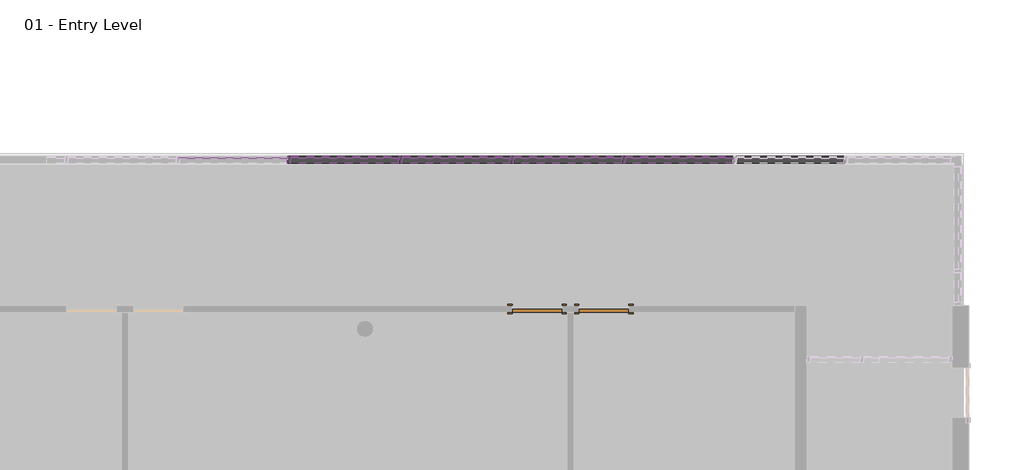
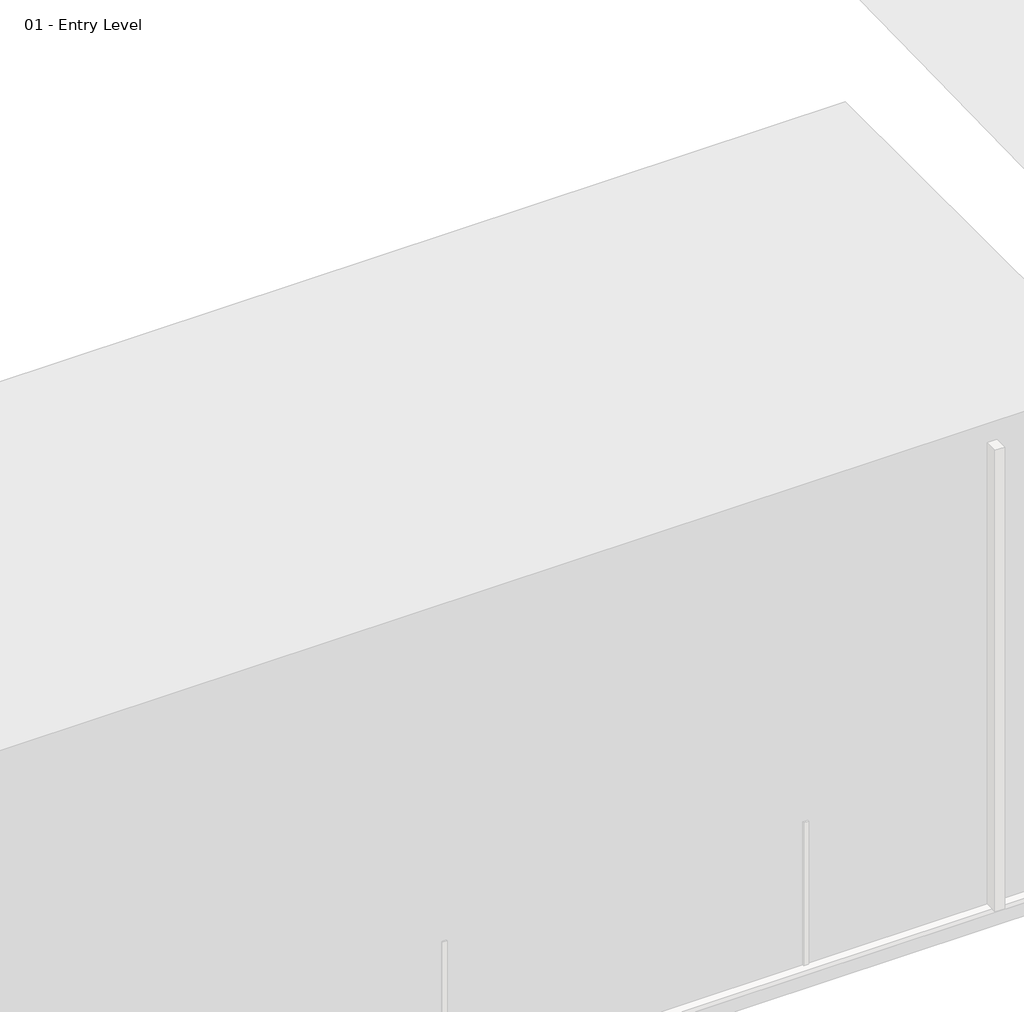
# One storey, part 21 of 35: 85 members, 45 plates, 2 doors.
"""IFC4 building model written with IfcOpenShell, lengths in millimetres."""

from ifc_helpers import new_model, si_unit, origin, place, context, project, spatial, transform, mapped, element, save
from components import door_305aa2a5, door_e5f9f3c4, member_2b49869a, member_391b434c, member_9e90ae50, system_panel_glazed_1b9d6098, system_panel_glazed_70da479d

model = new_model("IFC4")

# Units and contexts
model_context = context("Model", 3, world=origin())
ifc_project = project(units=[si_unit("LENGTHUNIT", "METRE", prefix="MILLI")], contexts=[model_context])

# Site, building, storey
site = spatial("IfcSite", under=ifc_project)
building = spatial("IfcBuilding", under=site)
storey = spatial("IfcBuildingStorey", under=building, Name="01 - Entry Level", Elevation=0.0)

# Doors
placement = place(None, origin())
door_shape = door_305aa2a5(model_context)
element("IfcDoor", 1, ObjectType="Single-Flush : 36\" x 84\"", at=placement, inside=storey, context=model_context, shape_type="MappedRepresentation", body=[
    mapped(door_shape, transform((58433.6207476, 8277.15, 0.0), x_axis=(1.0, 0.0, 0.0), y_axis=(0.0, 1.0, 0.0), z_axis=(0.0, 0.0, 1.0))),
])
door_2_shape = door_e5f9f3c4(model_context)
element("IfcDoor", 2, ObjectType="Single-Flush : 36\" x 84\"", at=placement, inside=storey, context=model_context, shape_type="MappedRepresentation", body=[
    mapped(door_2_shape, transform((59652.8207476, 8277.15, 0.0), x_axis=(-1.0, 0.0, 0.0), y_axis=(0.0, -1.0, 0.0), z_axis=(0.0, 0.0, 1.0))),
])

# Members
member_shape = member_2b49869a(model_context)
element("IfcMember", 3, ObjectType="Rectangular Mullion : 2.5\" x 5\" rectangular", at=placement, inside=storey, context=model_context, shape_type="MappedRepresentation", body=[
    mapped(member_shape, transform((60008.4207476, 11001.3, 9753.6), x_axis=(-1.0, 0.0, 0.0), y_axis=(0.0, 1.0, 0.0), z_axis=(0.0, 0.0, -1.0))),
])
element("IfcMember", 4, ObjectType="Rectangular Mullion : 2.5\" x 5\" rectangular", at=placement, inside=storey, context=model_context, shape_type="MappedRepresentation", body=[
    mapped(member_shape, transform((57976.4207476, 11001.3, 9753.6), x_axis=(-1.0, 0.0, 0.0), y_axis=(0.0, 1.0, 0.0), z_axis=(0.0, 0.0, -1.0))),
])
element("IfcMember", 5, ObjectType="Rectangular Mullion : 2.5\" x 5\" rectangular", at=placement, inside=storey, context=model_context, shape_type="MappedRepresentation", body=[
    mapped(member_shape, transform((55944.4207476, 11001.3, 9753.6), x_axis=(-1.0, 0.0, 0.0), y_axis=(0.0, 1.0, 0.0), z_axis=(0.0, 0.0, -1.0))),
])
element("IfcMember", 6, ObjectType="Rectangular Mullion : 2.5\" x 5\" rectangular", at=placement, inside=storey, context=model_context, shape_type="MappedRepresentation", body=[
    mapped(member_shape, transform((53912.4207476, 11001.3, 9753.6), x_axis=(-1.0, 0.0, 0.0), y_axis=(0.0, 1.0, 0.0), z_axis=(0.0, 0.0, -1.0))),
])
member_2_shape = member_391b434c(model_context)
element("IfcMember", 7, ObjectType="Rectangular Mullion : 2.5\" x 5\" rectangular", at=placement, inside=storey, context=model_context, shape_type="MappedRepresentation", body=[
    mapped(member_2_shape, transform((62072.1707476, 11001.3, 10972.8), x_axis=(0.0, 0.0, 1.0), y_axis=(0.0, 1.0, 0.0), z_axis=(-1.0, 0.0, 0.0))),
])
element("IfcMember", 8, ObjectType="Rectangular Mullion : 2.5\" x 5\" rectangular", at=placement, inside=storey, context=model_context, shape_type="MappedRepresentation", body=[
    mapped(member_2_shape, transform((60040.1707476, 11001.3, 10972.8), x_axis=(0.0, 0.0, 1.0), y_axis=(0.0, 1.0, 0.0), z_axis=(-1.0, 0.0, 0.0))),
])
element("IfcMember", 9, ObjectType="Rectangular Mullion : 2.5\" x 5\" rectangular", at=placement, inside=storey, context=model_context, shape_type="MappedRepresentation", body=[
    mapped(member_2_shape, transform((58008.1707476, 11001.3, 10972.8), x_axis=(0.0, 0.0, 1.0), y_axis=(0.0, 1.0, 0.0), z_axis=(-1.0, 0.0, 0.0))),
])
element("IfcMember", 10, ObjectType="Rectangular Mullion : 2.5\" x 5\" rectangular", at=placement, inside=storey, context=model_context, shape_type="MappedRepresentation", body=[
    mapped(member_2_shape, transform((55976.1707476, 11001.3, 10972.8), x_axis=(0.0, 0.0, 1.0), y_axis=(0.0, 1.0, 0.0), z_axis=(-1.0, 0.0, 0.0))),
])
element("IfcMember", 11, ObjectType="Rectangular Mullion : 2.5\" x 5\" rectangular", at=placement, inside=storey, context=model_context, shape_type="MappedRepresentation", body=[
    mapped(member_2_shape, transform((53944.1707476, 11001.3, 10972.8), x_axis=(0.0, 0.0, 1.0), y_axis=(0.0, 1.0, 0.0), z_axis=(-1.0, 0.0, 0.0))),
])
element("IfcMember", 12, ObjectType="Rectangular Mullion : 2.5\" x 5\" rectangular", at=placement, inside=storey, context=model_context, shape_type="MappedRepresentation", body=[
    mapped(member_2_shape, transform((62008.6707476, 11001.3, 0.0), x_axis=(0.0, 0.0, -1.0), y_axis=(0.0, 1.0, 0.0), z_axis=(1.0, 0.0, 0.0))),
])
element("IfcMember", 13, ObjectType="Rectangular Mullion : 2.5\" x 5\" rectangular", at=placement, inside=storey, context=model_context, shape_type="MappedRepresentation", body=[
    mapped(member_2_shape, transform((59976.6707476, 11001.3, 0.0), x_axis=(0.0, 0.0, -1.0), y_axis=(0.0, 1.0, 0.0), z_axis=(1.0, 0.0, 0.0))),
])
element("IfcMember", 14, ObjectType="Rectangular Mullion : 2.5\" x 5\" rectangular", at=placement, inside=storey, context=model_context, shape_type="MappedRepresentation", body=[
    mapped(member_2_shape, transform((57944.6707476, 11001.3, 0.0), x_axis=(0.0, 0.0, -1.0), y_axis=(0.0, 1.0, 0.0), z_axis=(1.0, 0.0, 0.0))),
])
element("IfcMember", 15, ObjectType="Rectangular Mullion : 2.5\" x 5\" rectangular", at=placement, inside=storey, context=model_context, shape_type="MappedRepresentation", body=[
    mapped(member_2_shape, transform((55912.6707476, 11001.3, 0.0), x_axis=(0.0, 0.0, -1.0), y_axis=(0.0, 1.0, 0.0), z_axis=(1.0, 0.0, 0.0))),
])
element("IfcMember", 16, ObjectType="Rectangular Mullion : 2.5\" x 5\" rectangular", at=placement, inside=storey, context=model_context, shape_type="MappedRepresentation", body=[
    mapped(member_2_shape, transform((53880.6707476, 11001.3, 0.0), x_axis=(0.0, 0.0, -1.0), y_axis=(0.0, 1.0, 0.0), z_axis=(1.0, 0.0, 0.0))),
])
member_3_shape = member_9e90ae50(model_context)
element("IfcMember", 17, ObjectType="Rectangular Mullion : 2.5\" x 5\" rectangular", at=placement, inside=storey, context=model_context, shape_type="MappedRepresentation", body=[
    mapped(member_3_shape, transform((62072.1707476, 11001.3, 1219.2), x_axis=(0.0, 0.0, 1.0), y_axis=(0.0, 1.0, 0.0), z_axis=(-1.0, 0.0, 0.0))),
])
element("IfcMember", 18, ObjectType="Rectangular Mullion : 2.5\" x 5\" rectangular", at=placement, inside=storey, context=model_context, shape_type="MappedRepresentation", body=[
    mapped(member_3_shape, transform((60040.1707476, 11001.3, 1219.2), x_axis=(0.0, 0.0, 1.0), y_axis=(0.0, 1.0, 0.0), z_axis=(-1.0, 0.0, 0.0))),
])
element("IfcMember", 19, ObjectType="Rectangular Mullion : 2.5\" x 5\" rectangular", at=placement, inside=storey, context=model_context, shape_type="MappedRepresentation", body=[
    mapped(member_3_shape, transform((58008.1707476, 11001.3, 1219.2), x_axis=(0.0, 0.0, 1.0), y_axis=(0.0, 1.0, 0.0), z_axis=(-1.0, 0.0, 0.0))),
])
element("IfcMember", 20, ObjectType="Rectangular Mullion : 2.5\" x 5\" rectangular", at=placement, inside=storey, context=model_context, shape_type="MappedRepresentation", body=[
    mapped(member_3_shape, transform((55976.1707476, 11001.3, 1219.2), x_axis=(0.0, 0.0, 1.0), y_axis=(0.0, 1.0, 0.0), z_axis=(-1.0, 0.0, 0.0))),
])
element("IfcMember", 21, ObjectType="Rectangular Mullion : 2.5\" x 5\" rectangular", at=placement, inside=storey, context=model_context, shape_type="MappedRepresentation", body=[
    mapped(member_3_shape, transform((53944.1707476, 11001.3, 1219.2), x_axis=(0.0, 0.0, 1.0), y_axis=(0.0, 1.0, 0.0), z_axis=(-1.0, 0.0, 0.0))),
])
element("IfcMember", 22, ObjectType="Rectangular Mullion : 2.5\" x 5\" rectangular", at=placement, inside=storey, context=model_context, shape_type="MappedRepresentation", body=[
    mapped(member_3_shape, transform((62072.1707476, 11001.3, 2438.4), x_axis=(0.0, 0.0, 1.0), y_axis=(0.0, 1.0, 0.0), z_axis=(-1.0, 0.0, 0.0))),
])
element("IfcMember", 23, ObjectType="Rectangular Mullion : 2.5\" x 5\" rectangular", at=placement, inside=storey, context=model_context, shape_type="MappedRepresentation", body=[
    mapped(member_3_shape, transform((60040.1707476, 11001.3, 2438.4), x_axis=(0.0, 0.0, 1.0), y_axis=(0.0, 1.0, 0.0), z_axis=(-1.0, 0.0, 0.0))),
])
element("IfcMember", 24, ObjectType="Rectangular Mullion : 2.5\" x 5\" rectangular", at=placement, inside=storey, context=model_context, shape_type="MappedRepresentation", body=[
    mapped(member_3_shape, transform((58008.1707476, 11001.3, 2438.4), x_axis=(0.0, 0.0, 1.0), y_axis=(0.0, 1.0, 0.0), z_axis=(-1.0, 0.0, 0.0))),
])
element("IfcMember", 25, ObjectType="Rectangular Mullion : 2.5\" x 5\" rectangular", at=placement, inside=storey, context=model_context, shape_type="MappedRepresentation", body=[
    mapped(member_3_shape, transform((55976.1707476, 11001.3, 2438.4), x_axis=(0.0, 0.0, 1.0), y_axis=(0.0, 1.0, 0.0), z_axis=(-1.0, 0.0, 0.0))),
])
element("IfcMember", 26, ObjectType="Rectangular Mullion : 2.5\" x 5\" rectangular", at=placement, inside=storey, context=model_context, shape_type="MappedRepresentation", body=[
    mapped(member_3_shape, transform((53944.1707476, 11001.3, 2438.4), x_axis=(0.0, 0.0, 1.0), y_axis=(0.0, 1.0, 0.0), z_axis=(-1.0, 0.0, 0.0))),
])
element("IfcMember", 27, ObjectType="Rectangular Mullion : 2.5\" x 5\" rectangular", at=placement, inside=storey, context=model_context, shape_type="MappedRepresentation", body=[
    mapped(member_3_shape, transform((62072.1707476, 11001.3, 3657.6), x_axis=(0.0, 0.0, 1.0), y_axis=(0.0, 1.0, 0.0), z_axis=(-1.0, 0.0, 0.0))),
])
element("IfcMember", 28, ObjectType="Rectangular Mullion : 2.5\" x 5\" rectangular", at=placement, inside=storey, context=model_context, shape_type="MappedRepresentation", body=[
    mapped(member_3_shape, transform((60040.1707476, 11001.3, 3657.6), x_axis=(0.0, 0.0, 1.0), y_axis=(0.0, 1.0, 0.0), z_axis=(-1.0, 0.0, 0.0))),
])
element("IfcMember", 29, ObjectType="Rectangular Mullion : 2.5\" x 5\" rectangular", at=placement, inside=storey, context=model_context, shape_type="MappedRepresentation", body=[
    mapped(member_3_shape, transform((58008.1707476, 11001.3, 3657.6), x_axis=(0.0, 0.0, 1.0), y_axis=(0.0, 1.0, 0.0), z_axis=(-1.0, 0.0, 0.0))),
])
element("IfcMember", 30, ObjectType="Rectangular Mullion : 2.5\" x 5\" rectangular", at=placement, inside=storey, context=model_context, shape_type="MappedRepresentation", body=[
    mapped(member_3_shape, transform((55976.1707476, 11001.3, 3657.6), x_axis=(0.0, 0.0, 1.0), y_axis=(0.0, 1.0, 0.0), z_axis=(-1.0, 0.0, 0.0))),
])
element("IfcMember", 31, ObjectType="Rectangular Mullion : 2.5\" x 5\" rectangular", at=placement, inside=storey, context=model_context, shape_type="MappedRepresentation", body=[
    mapped(member_3_shape, transform((53944.1707476, 11001.3, 3657.6), x_axis=(0.0, 0.0, 1.0), y_axis=(0.0, 1.0, 0.0), z_axis=(-1.0, 0.0, 0.0))),
])
element("IfcMember", 32, ObjectType="Rectangular Mullion : 2.5\" x 5\" rectangular", at=placement, inside=storey, context=model_context, shape_type="MappedRepresentation", body=[
    mapped(member_3_shape, transform((62072.1707476, 11001.3, 4876.8), x_axis=(0.0, 0.0, 1.0), y_axis=(0.0, 1.0, 0.0), z_axis=(-1.0, 0.0, 0.0))),
])
element("IfcMember", 33, ObjectType="Rectangular Mullion : 2.5\" x 5\" rectangular", at=placement, inside=storey, context=model_context, shape_type="MappedRepresentation", body=[
    mapped(member_3_shape, transform((60040.1707476, 11001.3, 4876.8), x_axis=(0.0, 0.0, 1.0), y_axis=(0.0, 1.0, 0.0), z_axis=(-1.0, 0.0, 0.0))),
])
element("IfcMember", 34, ObjectType="Rectangular Mullion : 2.5\" x 5\" rectangular", at=placement, inside=storey, context=model_context, shape_type="MappedRepresentation", body=[
    mapped(member_3_shape, transform((58008.1707476, 11001.3, 4876.8), x_axis=(0.0, 0.0, 1.0), y_axis=(0.0, 1.0, 0.0), z_axis=(-1.0, 0.0, 0.0))),
])
element("IfcMember", 35, ObjectType="Rectangular Mullion : 2.5\" x 5\" rectangular", at=placement, inside=storey, context=model_context, shape_type="MappedRepresentation", body=[
    mapped(member_3_shape, transform((55976.1707476, 11001.3, 4876.8), x_axis=(0.0, 0.0, 1.0), y_axis=(0.0, 1.0, 0.0), z_axis=(-1.0, 0.0, 0.0))),
])
element("IfcMember", 36, ObjectType="Rectangular Mullion : 2.5\" x 5\" rectangular", at=placement, inside=storey, context=model_context, shape_type="MappedRepresentation", body=[
    mapped(member_3_shape, transform((53944.1707476, 11001.3, 4876.8), x_axis=(0.0, 0.0, 1.0), y_axis=(0.0, 1.0, 0.0), z_axis=(-1.0, 0.0, 0.0))),
])
element("IfcMember", 37, ObjectType="Rectangular Mullion : 2.5\" x 5\" rectangular", at=placement, inside=storey, context=model_context, shape_type="MappedRepresentation", body=[
    mapped(member_3_shape, transform((62072.1707476, 11001.3, 6096.0), x_axis=(0.0, 0.0, 1.0), y_axis=(0.0, 1.0, 0.0), z_axis=(-1.0, 0.0, 0.0))),
])
element("IfcMember", 38, ObjectType="Rectangular Mullion : 2.5\" x 5\" rectangular", at=placement, inside=storey, context=model_context, shape_type="MappedRepresentation", body=[
    mapped(member_3_shape, transform((60040.1707476, 11001.3, 6096.0), x_axis=(0.0, 0.0, 1.0), y_axis=(0.0, 1.0, 0.0), z_axis=(-1.0, 0.0, 0.0))),
])
element("IfcMember", 39, ObjectType="Rectangular Mullion : 2.5\" x 5\" rectangular", at=placement, inside=storey, context=model_context, shape_type="MappedRepresentation", body=[
    mapped(member_3_shape, transform((58008.1707476, 11001.3, 6096.0), x_axis=(0.0, 0.0, 1.0), y_axis=(0.0, 1.0, 0.0), z_axis=(-1.0, 0.0, 0.0))),
])
element("IfcMember", 40, ObjectType="Rectangular Mullion : 2.5\" x 5\" rectangular", at=placement, inside=storey, context=model_context, shape_type="MappedRepresentation", body=[
    mapped(member_3_shape, transform((55976.1707476, 11001.3, 6096.0), x_axis=(0.0, 0.0, 1.0), y_axis=(0.0, 1.0, 0.0), z_axis=(-1.0, 0.0, 0.0))),
])
element("IfcMember", 41, ObjectType="Rectangular Mullion : 2.5\" x 5\" rectangular", at=placement, inside=storey, context=model_context, shape_type="MappedRepresentation", body=[
    mapped(member_3_shape, transform((53944.1707476, 11001.3, 6096.0), x_axis=(0.0, 0.0, 1.0), y_axis=(0.0, 1.0, 0.0), z_axis=(-1.0, 0.0, 0.0))),
])
element("IfcMember", 42, ObjectType="Rectangular Mullion : 2.5\" x 5\" rectangular", at=placement, inside=storey, context=model_context, shape_type="MappedRepresentation", body=[
    mapped(member_3_shape, transform((62072.1707476, 11001.3, 7315.2), x_axis=(0.0, 0.0, 1.0), y_axis=(0.0, 1.0, 0.0), z_axis=(-1.0, 0.0, 0.0))),
])
element("IfcMember", 43, ObjectType="Rectangular Mullion : 2.5\" x 5\" rectangular", at=placement, inside=storey, context=model_context, shape_type="MappedRepresentation", body=[
    mapped(member_3_shape, transform((60040.1707476, 11001.3, 7315.2), x_axis=(0.0, 0.0, 1.0), y_axis=(0.0, 1.0, 0.0), z_axis=(-1.0, 0.0, 0.0))),
])
element("IfcMember", 44, ObjectType="Rectangular Mullion : 2.5\" x 5\" rectangular", at=placement, inside=storey, context=model_context, shape_type="MappedRepresentation", body=[
    mapped(member_3_shape, transform((58008.1707476, 11001.3, 7315.2), x_axis=(0.0, 0.0, 1.0), y_axis=(0.0, 1.0, 0.0), z_axis=(-1.0, 0.0, 0.0))),
])
element("IfcMember", 45, ObjectType="Rectangular Mullion : 2.5\" x 5\" rectangular", at=placement, inside=storey, context=model_context, shape_type="MappedRepresentation", body=[
    mapped(member_3_shape, transform((55976.1707476, 11001.3, 7315.2), x_axis=(0.0, 0.0, 1.0), y_axis=(0.0, 1.0, 0.0), z_axis=(-1.0, 0.0, 0.0))),
])
element("IfcMember", 46, ObjectType="Rectangular Mullion : 2.5\" x 5\" rectangular", at=placement, inside=storey, context=model_context, shape_type="MappedRepresentation", body=[
    mapped(member_3_shape, transform((53944.1707476, 11001.3, 7315.2), x_axis=(0.0, 0.0, 1.0), y_axis=(0.0, 1.0, 0.0), z_axis=(-1.0, 0.0, 0.0))),
])
element("IfcMember", 47, ObjectType="Rectangular Mullion : 2.5\" x 5\" rectangular", at=placement, inside=storey, context=model_context, shape_type="MappedRepresentation", body=[
    mapped(member_3_shape, transform((62072.1707476, 11001.3, 8534.4), x_axis=(0.0, 0.0, 1.0), y_axis=(0.0, 1.0, 0.0), z_axis=(-1.0, 0.0, 0.0))),
])
element("IfcMember", 48, ObjectType="Rectangular Mullion : 2.5\" x 5\" rectangular", at=placement, inside=storey, context=model_context, shape_type="MappedRepresentation", body=[
    mapped(member_3_shape, transform((60040.1707476, 11001.3, 8534.4), x_axis=(0.0, 0.0, 1.0), y_axis=(0.0, 1.0, 0.0), z_axis=(-1.0, 0.0, 0.0))),
])
element("IfcMember", 49, ObjectType="Rectangular Mullion : 2.5\" x 5\" rectangular", at=placement, inside=storey, context=model_context, shape_type="MappedRepresentation", body=[
    mapped(member_3_shape, transform((58008.1707476, 11001.3, 8534.4), x_axis=(0.0, 0.0, 1.0), y_axis=(0.0, 1.0, 0.0), z_axis=(-1.0, 0.0, 0.0))),
])
element("IfcMember", 50, ObjectType="Rectangular Mullion : 2.5\" x 5\" rectangular", at=placement, inside=storey, context=model_context, shape_type="MappedRepresentation", body=[
    mapped(member_3_shape, transform((55976.1707476, 11001.3, 8534.4), x_axis=(0.0, 0.0, 1.0), y_axis=(0.0, 1.0, 0.0), z_axis=(-1.0, 0.0, 0.0))),
])
element("IfcMember", 51, ObjectType="Rectangular Mullion : 2.5\" x 5\" rectangular", at=placement, inside=storey, context=model_context, shape_type="MappedRepresentation", body=[
    mapped(member_3_shape, transform((53944.1707476, 11001.3, 8534.4), x_axis=(0.0, 0.0, 1.0), y_axis=(0.0, 1.0, 0.0), z_axis=(-1.0, 0.0, 0.0))),
])
element("IfcMember", 52, ObjectType="Rectangular Mullion : 2.5\" x 5\" rectangular", at=placement, inside=storey, context=model_context, shape_type="MappedRepresentation", body=[
    mapped(member_3_shape, transform((60040.1707476, 11001.3, 9753.6), x_axis=(0.0, 0.0, 1.0), y_axis=(0.0, 1.0, 0.0), z_axis=(-1.0, 0.0, 0.0))),
])
element("IfcMember", 53, ObjectType="Rectangular Mullion : 2.5\" x 5\" rectangular", at=placement, inside=storey, context=model_context, shape_type="MappedRepresentation", body=[
    mapped(member_3_shape, transform((58008.1707476, 11001.3, 9753.6), x_axis=(0.0, 0.0, 1.0), y_axis=(0.0, 1.0, 0.0), z_axis=(-1.0, 0.0, 0.0))),
])
element("IfcMember", 54, ObjectType="Rectangular Mullion : 2.5\" x 5\" rectangular", at=placement, inside=storey, context=model_context, shape_type="MappedRepresentation", body=[
    mapped(member_3_shape, transform((55976.1707476, 11001.3, 9753.6), x_axis=(0.0, 0.0, 1.0), y_axis=(0.0, 1.0, 0.0), z_axis=(-1.0, 0.0, 0.0))),
])
element("IfcMember", 55, ObjectType="Rectangular Mullion : 2.5\" x 5\" rectangular", at=placement, inside=storey, context=model_context, shape_type="MappedRepresentation", body=[
    mapped(member_3_shape, transform((53944.1707476, 11001.3, 9753.6), x_axis=(0.0, 0.0, 1.0), y_axis=(0.0, 1.0, 0.0), z_axis=(-1.0, 0.0, 0.0))),
])
element("IfcMember", 56, ObjectType="Rectangular Mullion : 2.5\" x 5\" rectangular", at=placement, inside=storey, context=model_context, shape_type="MappedRepresentation", body=[
    mapped(member_shape, transform((60008.4207476, 11001.3, 0.0), x_axis=(-1.0, 0.0, 0.0), y_axis=(0.0, 1.0, 0.0), z_axis=(0.0, 0.0, -1.0))),
])
element("IfcMember", 57, ObjectType="Rectangular Mullion : 2.5\" x 5\" rectangular", at=placement, inside=storey, context=model_context, shape_type="MappedRepresentation", body=[
    mapped(member_shape, transform((57976.4207476, 11001.3, 0.0), x_axis=(-1.0, 0.0, 0.0), y_axis=(0.0, 1.0, 0.0), z_axis=(0.0, 0.0, -1.0))),
])
element("IfcMember", 58, ObjectType="Rectangular Mullion : 2.5\" x 5\" rectangular", at=placement, inside=storey, context=model_context, shape_type="MappedRepresentation", body=[
    mapped(member_shape, transform((55944.4207476, 11001.3, 0.0), x_axis=(-1.0, 0.0, 0.0), y_axis=(0.0, 1.0, 0.0), z_axis=(0.0, 0.0, -1.0))),
])
element("IfcMember", 59, ObjectType="Rectangular Mullion : 2.5\" x 5\" rectangular", at=placement, inside=storey, context=model_context, shape_type="MappedRepresentation", body=[
    mapped(member_shape, transform((53912.4207476, 11001.3, 0.0), x_axis=(-1.0, 0.0, 0.0), y_axis=(0.0, 1.0, 0.0), z_axis=(0.0, 0.0, -1.0))),
])
element("IfcMember", 60, ObjectType="Rectangular Mullion : 2.5\" x 5\" rectangular", at=placement, inside=storey, context=model_context, shape_type="MappedRepresentation", body=[
    mapped(member_shape, transform((60008.4207476, 11001.3, 1219.2), x_axis=(-1.0, 0.0, 0.0), y_axis=(0.0, 1.0, 0.0), z_axis=(0.0, 0.0, -1.0))),
])
element("IfcMember", 61, ObjectType="Rectangular Mullion : 2.5\" x 5\" rectangular", at=placement, inside=storey, context=model_context, shape_type="MappedRepresentation", body=[
    mapped(member_shape, transform((57976.4207476, 11001.3, 1219.2), x_axis=(-1.0, 0.0, 0.0), y_axis=(0.0, 1.0, 0.0), z_axis=(0.0, 0.0, -1.0))),
])
element("IfcMember", 62, ObjectType="Rectangular Mullion : 2.5\" x 5\" rectangular", at=placement, inside=storey, context=model_context, shape_type="MappedRepresentation", body=[
    mapped(member_shape, transform((55944.4207476, 11001.3, 1219.2), x_axis=(-1.0, 0.0, 0.0), y_axis=(0.0, 1.0, 0.0), z_axis=(0.0, 0.0, -1.0))),
])
element("IfcMember", 63, ObjectType="Rectangular Mullion : 2.5\" x 5\" rectangular", at=placement, inside=storey, context=model_context, shape_type="MappedRepresentation", body=[
    mapped(member_shape, transform((53912.4207476, 11001.3, 1219.2), x_axis=(-1.0, 0.0, 0.0), y_axis=(0.0, 1.0, 0.0), z_axis=(0.0, 0.0, -1.0))),
])
element("IfcMember", 64, ObjectType="Rectangular Mullion : 2.5\" x 5\" rectangular", at=placement, inside=storey, context=model_context, shape_type="MappedRepresentation", body=[
    mapped(member_shape, transform((60008.4207476, 11001.3, 2438.4), x_axis=(-1.0, 0.0, 0.0), y_axis=(0.0, 1.0, 0.0), z_axis=(0.0, 0.0, -1.0))),
])
element("IfcMember", 65, ObjectType="Rectangular Mullion : 2.5\" x 5\" rectangular", at=placement, inside=storey, context=model_context, shape_type="MappedRepresentation", body=[
    mapped(member_shape, transform((57976.4207476, 11001.3, 2438.4), x_axis=(-1.0, 0.0, 0.0), y_axis=(0.0, 1.0, 0.0), z_axis=(0.0, 0.0, -1.0))),
])
element("IfcMember", 66, ObjectType="Rectangular Mullion : 2.5\" x 5\" rectangular", at=placement, inside=storey, context=model_context, shape_type="MappedRepresentation", body=[
    mapped(member_shape, transform((55944.4207476, 11001.3, 2438.4), x_axis=(-1.0, 0.0, 0.0), y_axis=(0.0, 1.0, 0.0), z_axis=(0.0, 0.0, -1.0))),
])
element("IfcMember", 67, ObjectType="Rectangular Mullion : 2.5\" x 5\" rectangular", at=placement, inside=storey, context=model_context, shape_type="MappedRepresentation", body=[
    mapped(member_shape, transform((53912.4207476, 11001.3, 2438.4), x_axis=(-1.0, 0.0, 0.0), y_axis=(0.0, 1.0, 0.0), z_axis=(0.0, 0.0, -1.0))),
])
element("IfcMember", 68, ObjectType="Rectangular Mullion : 2.5\" x 5\" rectangular", at=placement, inside=storey, context=model_context, shape_type="MappedRepresentation", body=[
    mapped(member_shape, transform((60008.4207476, 11001.3, 3657.6), x_axis=(-1.0, 0.0, 0.0), y_axis=(0.0, 1.0, 0.0), z_axis=(0.0, 0.0, -1.0))),
])
element("IfcMember", 69, ObjectType="Rectangular Mullion : 2.5\" x 5\" rectangular", at=placement, inside=storey, context=model_context, shape_type="MappedRepresentation", body=[
    mapped(member_shape, transform((57976.4207476, 11001.3, 3657.6), x_axis=(-1.0, 0.0, 0.0), y_axis=(0.0, 1.0, 0.0), z_axis=(0.0, 0.0, -1.0))),
])
element("IfcMember", 70, ObjectType="Rectangular Mullion : 2.5\" x 5\" rectangular", at=placement, inside=storey, context=model_context, shape_type="MappedRepresentation", body=[
    mapped(member_shape, transform((55944.4207476, 11001.3, 3657.6), x_axis=(-1.0, 0.0, 0.0), y_axis=(0.0, 1.0, 0.0), z_axis=(0.0, 0.0, -1.0))),
])
element("IfcMember", 71, ObjectType="Rectangular Mullion : 2.5\" x 5\" rectangular", at=placement, inside=storey, context=model_context, shape_type="MappedRepresentation", body=[
    mapped(member_shape, transform((53912.4207476, 11001.3, 3657.6), x_axis=(-1.0, 0.0, 0.0), y_axis=(0.0, 1.0, 0.0), z_axis=(0.0, 0.0, -1.0))),
])
element("IfcMember", 72, ObjectType="Rectangular Mullion : 2.5\" x 5\" rectangular", at=placement, inside=storey, context=model_context, shape_type="MappedRepresentation", body=[
    mapped(member_shape, transform((60008.4207476, 11001.3, 4876.8), x_axis=(-1.0, 0.0, 0.0), y_axis=(0.0, 1.0, 0.0), z_axis=(0.0, 0.0, -1.0))),
])
element("IfcMember", 73, ObjectType="Rectangular Mullion : 2.5\" x 5\" rectangular", at=placement, inside=storey, context=model_context, shape_type="MappedRepresentation", body=[
    mapped(member_shape, transform((57976.4207476, 11001.3, 4876.8), x_axis=(-1.0, 0.0, 0.0), y_axis=(0.0, 1.0, 0.0), z_axis=(0.0, 0.0, -1.0))),
])
element("IfcMember", 74, ObjectType="Rectangular Mullion : 2.5\" x 5\" rectangular", at=placement, inside=storey, context=model_context, shape_type="MappedRepresentation", body=[
    mapped(member_shape, transform((55944.4207476, 11001.3, 4876.8), x_axis=(-1.0, 0.0, 0.0), y_axis=(0.0, 1.0, 0.0), z_axis=(0.0, 0.0, -1.0))),
])
element("IfcMember", 75, ObjectType="Rectangular Mullion : 2.5\" x 5\" rectangular", at=placement, inside=storey, context=model_context, shape_type="MappedRepresentation", body=[
    mapped(member_shape, transform((53912.4207476, 11001.3, 4876.8), x_axis=(-1.0, 0.0, 0.0), y_axis=(0.0, 1.0, 0.0), z_axis=(0.0, 0.0, -1.0))),
])
element("IfcMember", 76, ObjectType="Rectangular Mullion : 2.5\" x 5\" rectangular", at=placement, inside=storey, context=model_context, shape_type="MappedRepresentation", body=[
    mapped(member_shape, transform((60008.4207476, 11001.3, 6096.0), x_axis=(-1.0, 0.0, 0.0), y_axis=(0.0, 1.0, 0.0), z_axis=(0.0, 0.0, -1.0))),
])
element("IfcMember", 77, ObjectType="Rectangular Mullion : 2.5\" x 5\" rectangular", at=placement, inside=storey, context=model_context, shape_type="MappedRepresentation", body=[
    mapped(member_shape, transform((57976.4207476, 11001.3, 6096.0), x_axis=(-1.0, 0.0, 0.0), y_axis=(0.0, 1.0, 0.0), z_axis=(0.0, 0.0, -1.0))),
])
element("IfcMember", 78, ObjectType="Rectangular Mullion : 2.5\" x 5\" rectangular", at=placement, inside=storey, context=model_context, shape_type="MappedRepresentation", body=[
    mapped(member_shape, transform((55944.4207476, 11001.3, 6096.0), x_axis=(-1.0, 0.0, 0.0), y_axis=(0.0, 1.0, 0.0), z_axis=(0.0, 0.0, -1.0))),
])
element("IfcMember", 79, ObjectType="Rectangular Mullion : 2.5\" x 5\" rectangular", at=placement, inside=storey, context=model_context, shape_type="MappedRepresentation", body=[
    mapped(member_shape, transform((53912.4207476, 11001.3, 6096.0), x_axis=(-1.0, 0.0, 0.0), y_axis=(0.0, 1.0, 0.0), z_axis=(0.0, 0.0, -1.0))),
])
element("IfcMember", 80, ObjectType="Rectangular Mullion : 2.5\" x 5\" rectangular", at=placement, inside=storey, context=model_context, shape_type="MappedRepresentation", body=[
    mapped(member_shape, transform((60008.4207476, 11001.3, 7315.2), x_axis=(-1.0, 0.0, 0.0), y_axis=(0.0, 1.0, 0.0), z_axis=(0.0, 0.0, -1.0))),
])
element("IfcMember", 81, ObjectType="Rectangular Mullion : 2.5\" x 5\" rectangular", at=placement, inside=storey, context=model_context, shape_type="MappedRepresentation", body=[
    mapped(member_shape, transform((57976.4207476, 11001.3, 7315.2), x_axis=(-1.0, 0.0, 0.0), y_axis=(0.0, 1.0, 0.0), z_axis=(0.0, 0.0, -1.0))),
])
element("IfcMember", 82, ObjectType="Rectangular Mullion : 2.5\" x 5\" rectangular", at=placement, inside=storey, context=model_context, shape_type="MappedRepresentation", body=[
    mapped(member_shape, transform((55944.4207476, 11001.3, 7315.2), x_axis=(-1.0, 0.0, 0.0), y_axis=(0.0, 1.0, 0.0), z_axis=(0.0, 0.0, -1.0))),
])
element("IfcMember", 83, ObjectType="Rectangular Mullion : 2.5\" x 5\" rectangular", at=placement, inside=storey, context=model_context, shape_type="MappedRepresentation", body=[
    mapped(member_shape, transform((53912.4207476, 11001.3, 7315.2), x_axis=(-1.0, 0.0, 0.0), y_axis=(0.0, 1.0, 0.0), z_axis=(0.0, 0.0, -1.0))),
])
element("IfcMember", 84, ObjectType="Rectangular Mullion : 2.5\" x 5\" rectangular", at=placement, inside=storey, context=model_context, shape_type="MappedRepresentation", body=[
    mapped(member_shape, transform((60008.4207476, 11001.3, 8534.4), x_axis=(-1.0, 0.0, 0.0), y_axis=(0.0, 1.0, 0.0), z_axis=(0.0, 0.0, -1.0))),
])
element("IfcMember", 85, ObjectType="Rectangular Mullion : 2.5\" x 5\" rectangular", at=placement, inside=storey, context=model_context, shape_type="MappedRepresentation", body=[
    mapped(member_shape, transform((57976.4207476, 11001.3, 8534.4), x_axis=(-1.0, 0.0, 0.0), y_axis=(0.0, 1.0, 0.0), z_axis=(0.0, 0.0, -1.0))),
])
element("IfcMember", 86, ObjectType="Rectangular Mullion : 2.5\" x 5\" rectangular", at=placement, inside=storey, context=model_context, shape_type="MappedRepresentation", body=[
    mapped(member_shape, transform((55944.4207476, 11001.3, 8534.4), x_axis=(-1.0, 0.0, 0.0), y_axis=(0.0, 1.0, 0.0), z_axis=(0.0, 0.0, -1.0))),
])
element("IfcMember", 87, ObjectType="Rectangular Mullion : 2.5\" x 5\" rectangular", at=placement, inside=storey, context=model_context, shape_type="MappedRepresentation", body=[
    mapped(member_shape, transform((53912.4207476, 11001.3, 8534.4), x_axis=(-1.0, 0.0, 0.0), y_axis=(0.0, 1.0, 0.0), z_axis=(0.0, 0.0, -1.0))),
])

# Plates
system_panel_glazed_shape = system_panel_glazed_1b9d6098(model_context)
element("IfcPlate", 88, ObjectType="System Panel : Glazed", at=placement, inside=storey, context=model_context, shape_type="MappedRepresentation", body=[
    mapped(system_panel_glazed_shape, transform((61024.4207476, 11001.3, 63.5), x_axis=(-1.0, 0.0, 0.0), y_axis=(0.0, -1.0, 0.0), z_axis=(0.0, 0.0, 1.0))),
])
element("IfcPlate", 89, ObjectType="System Panel : Glazed", at=placement, inside=storey, context=model_context, shape_type="MappedRepresentation", body=[
    mapped(system_panel_glazed_shape, transform((58992.4207476, 11001.3, 63.5), x_axis=(-1.0, 0.0, 0.0), y_axis=(0.0, -1.0, 0.0), z_axis=(0.0, 0.0, 1.0))),
])
element("IfcPlate", 90, ObjectType="System Panel : Glazed", at=placement, inside=storey, context=model_context, shape_type="MappedRepresentation", body=[
    mapped(system_panel_glazed_shape, transform((56960.4207476, 11001.3, 63.5), x_axis=(-1.0, 0.0, 0.0), y_axis=(0.0, -1.0, 0.0), z_axis=(0.0, 0.0, 1.0))),
])
element("IfcPlate", 91, ObjectType="System Panel : Glazed", at=placement, inside=storey, context=model_context, shape_type="MappedRepresentation", body=[
    mapped(system_panel_glazed_shape, transform((54928.4207476, 11001.3, 63.5), x_axis=(-1.0, 0.0, 0.0), y_axis=(0.0, -1.0, 0.0), z_axis=(0.0, 0.0, 1.0))),
])
element("IfcPlate", 92, ObjectType="System Panel : Glazed", at=placement, inside=storey, context=model_context, shape_type="MappedRepresentation", body=[
    mapped(system_panel_glazed_shape, transform((52896.4207476, 11001.3, 63.5), x_axis=(-1.0, 0.0, 0.0), y_axis=(0.0, -1.0, 0.0), z_axis=(0.0, 0.0, 1.0))),
])
element("IfcPlate", 93, ObjectType="System Panel : Glazed", at=placement, inside=storey, context=model_context, shape_type="MappedRepresentation", body=[
    mapped(system_panel_glazed_shape, transform((61024.4207476, 11001.3, 9785.35), x_axis=(-1.0, 0.0, 0.0), y_axis=(0.0, -1.0, 0.0), z_axis=(0.0, 0.0, 1.0))),
])
element("IfcPlate", 94, ObjectType="System Panel : Glazed", at=placement, inside=storey, context=model_context, shape_type="MappedRepresentation", body=[
    mapped(system_panel_glazed_shape, transform((58992.4207476, 11001.3, 9785.35), x_axis=(-1.0, 0.0, 0.0), y_axis=(0.0, -1.0, 0.0), z_axis=(0.0, 0.0, 1.0))),
])
element("IfcPlate", 95, ObjectType="System Panel : Glazed", at=placement, inside=storey, context=model_context, shape_type="MappedRepresentation", body=[
    mapped(system_panel_glazed_shape, transform((56960.4207476, 11001.3, 9785.35), x_axis=(-1.0, 0.0, 0.0), y_axis=(0.0, -1.0, 0.0), z_axis=(0.0, 0.0, 1.0))),
])
element("IfcPlate", 96, ObjectType="System Panel : Glazed", at=placement, inside=storey, context=model_context, shape_type="MappedRepresentation", body=[
    mapped(system_panel_glazed_shape, transform((54928.4207476, 11001.3, 9785.35), x_axis=(-1.0, 0.0, 0.0), y_axis=(0.0, -1.0, 0.0), z_axis=(0.0, 0.0, 1.0))),
])
element("IfcPlate", 97, ObjectType="System Panel : Glazed", at=placement, inside=storey, context=model_context, shape_type="MappedRepresentation", body=[
    mapped(system_panel_glazed_shape, transform((52896.4207476, 11001.3, 9785.35), x_axis=(-1.0, 0.0, 0.0), y_axis=(0.0, -1.0, 0.0), z_axis=(0.0, 0.0, 1.0))),
])
system_panel_glazed_2_shape = system_panel_glazed_70da479d(model_context)
element("IfcPlate", 98, ObjectType="System Panel : Glazed", at=placement, inside=storey, context=model_context, shape_type="MappedRepresentation", body=[
    mapped(system_panel_glazed_2_shape, transform((61024.4207476, 11001.3, 1250.95), x_axis=(-1.0, 0.0, 0.0), y_axis=(0.0, -1.0, 0.0), z_axis=(0.0, 0.0, 1.0))),
])
element("IfcPlate", 99, ObjectType="System Panel : Glazed", at=placement, inside=storey, context=model_context, shape_type="MappedRepresentation", body=[
    mapped(system_panel_glazed_2_shape, transform((58992.4207476, 11001.3, 1250.95), x_axis=(-1.0, 0.0, 0.0), y_axis=(0.0, -1.0, 0.0), z_axis=(0.0, 0.0, 1.0))),
])
element("IfcPlate", 100, ObjectType="System Panel : Glazed", at=placement, inside=storey, context=model_context, shape_type="MappedRepresentation", body=[
    mapped(system_panel_glazed_2_shape, transform((56960.4207476, 11001.3, 1250.95), x_axis=(-1.0, 0.0, 0.0), y_axis=(0.0, -1.0, 0.0), z_axis=(0.0, 0.0, 1.0))),
])
element("IfcPlate", 101, ObjectType="System Panel : Glazed", at=placement, inside=storey, context=model_context, shape_type="MappedRepresentation", body=[
    mapped(system_panel_glazed_2_shape, transform((54928.4207476, 11001.3, 1250.95), x_axis=(-1.0, 0.0, 0.0), y_axis=(0.0, -1.0, 0.0), z_axis=(0.0, 0.0, 1.0))),
])
element("IfcPlate", 102, ObjectType="System Panel : Glazed", at=placement, inside=storey, context=model_context, shape_type="MappedRepresentation", body=[
    mapped(system_panel_glazed_2_shape, transform((52896.4207476, 11001.3, 1250.95), x_axis=(-1.0, 0.0, 0.0), y_axis=(0.0, -1.0, 0.0), z_axis=(0.0, 0.0, 1.0))),
])
element("IfcPlate", 103, ObjectType="System Panel : Glazed", at=placement, inside=storey, context=model_context, shape_type="MappedRepresentation", body=[
    mapped(system_panel_glazed_2_shape, transform((61024.4207476, 11001.3, 2470.15), x_axis=(-1.0, 0.0, 0.0), y_axis=(0.0, -1.0, 0.0), z_axis=(0.0, 0.0, 1.0))),
])
element("IfcPlate", 104, ObjectType="System Panel : Glazed", at=placement, inside=storey, context=model_context, shape_type="MappedRepresentation", body=[
    mapped(system_panel_glazed_2_shape, transform((58992.4207476, 11001.3, 2470.15), x_axis=(-1.0, 0.0, 0.0), y_axis=(0.0, -1.0, 0.0), z_axis=(0.0, 0.0, 1.0))),
])
element("IfcPlate", 105, ObjectType="System Panel : Glazed", at=placement, inside=storey, context=model_context, shape_type="MappedRepresentation", body=[
    mapped(system_panel_glazed_2_shape, transform((56960.4207476, 11001.3, 2470.15), x_axis=(-1.0, 0.0, 0.0), y_axis=(0.0, -1.0, 0.0), z_axis=(0.0, 0.0, 1.0))),
])
element("IfcPlate", 106, ObjectType="System Panel : Glazed", at=placement, inside=storey, context=model_context, shape_type="MappedRepresentation", body=[
    mapped(system_panel_glazed_2_shape, transform((54928.4207476, 11001.3, 2470.15), x_axis=(-1.0, 0.0, 0.0), y_axis=(0.0, -1.0, 0.0), z_axis=(0.0, 0.0, 1.0))),
])
element("IfcPlate", 107, ObjectType="System Panel : Glazed", at=placement, inside=storey, context=model_context, shape_type="MappedRepresentation", body=[
    mapped(system_panel_glazed_2_shape, transform((52896.4207476, 11001.3, 2470.15), x_axis=(-1.0, 0.0, 0.0), y_axis=(0.0, -1.0, 0.0), z_axis=(0.0, 0.0, 1.0))),
])
element("IfcPlate", 108, ObjectType="System Panel : Glazed", at=placement, inside=storey, context=model_context, shape_type="MappedRepresentation", body=[
    mapped(system_panel_glazed_2_shape, transform((61024.4207476, 11001.3, 3689.35), x_axis=(-1.0, 0.0, 0.0), y_axis=(0.0, -1.0, 0.0), z_axis=(0.0, 0.0, 1.0))),
])
element("IfcPlate", 109, ObjectType="System Panel : Glazed", at=placement, inside=storey, context=model_context, shape_type="MappedRepresentation", body=[
    mapped(system_panel_glazed_2_shape, transform((58992.4207476, 11001.3, 3689.35), x_axis=(-1.0, 0.0, 0.0), y_axis=(0.0, -1.0, 0.0), z_axis=(0.0, 0.0, 1.0))),
])
element("IfcPlate", 110, ObjectType="System Panel : Glazed", at=placement, inside=storey, context=model_context, shape_type="MappedRepresentation", body=[
    mapped(system_panel_glazed_2_shape, transform((56960.4207476, 11001.3, 3689.35), x_axis=(-1.0, 0.0, 0.0), y_axis=(0.0, -1.0, 0.0), z_axis=(0.0, 0.0, 1.0))),
])
element("IfcPlate", 111, ObjectType="System Panel : Glazed", at=placement, inside=storey, context=model_context, shape_type="MappedRepresentation", body=[
    mapped(system_panel_glazed_2_shape, transform((54928.4207476, 11001.3, 3689.35), x_axis=(-1.0, 0.0, 0.0), y_axis=(0.0, -1.0, 0.0), z_axis=(0.0, 0.0, 1.0))),
])
element("IfcPlate", 112, ObjectType="System Panel : Glazed", at=placement, inside=storey, context=model_context, shape_type="MappedRepresentation", body=[
    mapped(system_panel_glazed_2_shape, transform((52896.4207476, 11001.3, 3689.35), x_axis=(-1.0, 0.0, 0.0), y_axis=(0.0, -1.0, 0.0), z_axis=(0.0, 0.0, 1.0))),
])
element("IfcPlate", 113, ObjectType="System Panel : Glazed", at=placement, inside=storey, context=model_context, shape_type="MappedRepresentation", body=[
    mapped(system_panel_glazed_2_shape, transform((61024.4207476, 11001.3, 4908.55), x_axis=(-1.0, 0.0, 0.0), y_axis=(0.0, -1.0, 0.0), z_axis=(0.0, 0.0, 1.0))),
])
element("IfcPlate", 114, ObjectType="System Panel : Glazed", at=placement, inside=storey, context=model_context, shape_type="MappedRepresentation", body=[
    mapped(system_panel_glazed_2_shape, transform((58992.4207476, 11001.3, 4908.55), x_axis=(-1.0, 0.0, 0.0), y_axis=(0.0, -1.0, 0.0), z_axis=(0.0, 0.0, 1.0))),
])
element("IfcPlate", 115, ObjectType="System Panel : Glazed", at=placement, inside=storey, context=model_context, shape_type="MappedRepresentation", body=[
    mapped(system_panel_glazed_2_shape, transform((56960.4207476, 11001.3, 4908.55), x_axis=(-1.0, 0.0, 0.0), y_axis=(0.0, -1.0, 0.0), z_axis=(0.0, 0.0, 1.0))),
])
element("IfcPlate", 116, ObjectType="System Panel : Glazed", at=placement, inside=storey, context=model_context, shape_type="MappedRepresentation", body=[
    mapped(system_panel_glazed_2_shape, transform((54928.4207476, 11001.3, 4908.55), x_axis=(-1.0, 0.0, 0.0), y_axis=(0.0, -1.0, 0.0), z_axis=(0.0, 0.0, 1.0))),
])
element("IfcPlate", 117, ObjectType="System Panel : Glazed", at=placement, inside=storey, context=model_context, shape_type="MappedRepresentation", body=[
    mapped(system_panel_glazed_2_shape, transform((52896.4207476, 11001.3, 4908.55), x_axis=(-1.0, 0.0, 0.0), y_axis=(0.0, -1.0, 0.0), z_axis=(0.0, 0.0, 1.0))),
])
element("IfcPlate", 118, ObjectType="System Panel : Glazed", at=placement, inside=storey, context=model_context, shape_type="MappedRepresentation", body=[
    mapped(system_panel_glazed_2_shape, transform((61024.4207476, 11001.3, 6127.75), x_axis=(-1.0, 0.0, 0.0), y_axis=(0.0, -1.0, 0.0), z_axis=(0.0, 0.0, 1.0))),
])
element("IfcPlate", 119, ObjectType="System Panel : Glazed", at=placement, inside=storey, context=model_context, shape_type="MappedRepresentation", body=[
    mapped(system_panel_glazed_2_shape, transform((58992.4207476, 11001.3, 6127.75), x_axis=(-1.0, 0.0, 0.0), y_axis=(0.0, -1.0, 0.0), z_axis=(0.0, 0.0, 1.0))),
])
element("IfcPlate", 120, ObjectType="System Panel : Glazed", at=placement, inside=storey, context=model_context, shape_type="MappedRepresentation", body=[
    mapped(system_panel_glazed_2_shape, transform((56960.4207476, 11001.3, 6127.75), x_axis=(-1.0, 0.0, 0.0), y_axis=(0.0, -1.0, 0.0), z_axis=(0.0, 0.0, 1.0))),
])
element("IfcPlate", 121, ObjectType="System Panel : Glazed", at=placement, inside=storey, context=model_context, shape_type="MappedRepresentation", body=[
    mapped(system_panel_glazed_2_shape, transform((54928.4207476, 11001.3, 6127.75), x_axis=(-1.0, 0.0, 0.0), y_axis=(0.0, -1.0, 0.0), z_axis=(0.0, 0.0, 1.0))),
])
element("IfcPlate", 122, ObjectType="System Panel : Glazed", at=placement, inside=storey, context=model_context, shape_type="MappedRepresentation", body=[
    mapped(system_panel_glazed_2_shape, transform((52896.4207476, 11001.3, 6127.75), x_axis=(-1.0, 0.0, 0.0), y_axis=(0.0, -1.0, 0.0), z_axis=(0.0, 0.0, 1.0))),
])
element("IfcPlate", 123, ObjectType="System Panel : Glazed", at=placement, inside=storey, context=model_context, shape_type="MappedRepresentation", body=[
    mapped(system_panel_glazed_2_shape, transform((61024.4207476, 11001.3, 7346.95), x_axis=(-1.0, 0.0, 0.0), y_axis=(0.0, -1.0, 0.0), z_axis=(0.0, 0.0, 1.0))),
])
element("IfcPlate", 124, ObjectType="System Panel : Glazed", at=placement, inside=storey, context=model_context, shape_type="MappedRepresentation", body=[
    mapped(system_panel_glazed_2_shape, transform((58992.4207476, 11001.3, 7346.95), x_axis=(-1.0, 0.0, 0.0), y_axis=(0.0, -1.0, 0.0), z_axis=(0.0, 0.0, 1.0))),
])
element("IfcPlate", 125, ObjectType="System Panel : Glazed", at=placement, inside=storey, context=model_context, shape_type="MappedRepresentation", body=[
    mapped(system_panel_glazed_2_shape, transform((56960.4207476, 11001.3, 7346.95), x_axis=(-1.0, 0.0, 0.0), y_axis=(0.0, -1.0, 0.0), z_axis=(0.0, 0.0, 1.0))),
])
element("IfcPlate", 126, ObjectType="System Panel : Glazed", at=placement, inside=storey, context=model_context, shape_type="MappedRepresentation", body=[
    mapped(system_panel_glazed_2_shape, transform((54928.4207476, 11001.3, 7346.95), x_axis=(-1.0, 0.0, 0.0), y_axis=(0.0, -1.0, 0.0), z_axis=(0.0, 0.0, 1.0))),
])
element("IfcPlate", 127, ObjectType="System Panel : Glazed", at=placement, inside=storey, context=model_context, shape_type="MappedRepresentation", body=[
    mapped(system_panel_glazed_2_shape, transform((52896.4207476, 11001.3, 7346.95), x_axis=(-1.0, 0.0, 0.0), y_axis=(0.0, -1.0, 0.0), z_axis=(0.0, 0.0, 1.0))),
])
element("IfcPlate", 128, ObjectType="System Panel : Glazed", at=placement, inside=storey, context=model_context, shape_type="MappedRepresentation", body=[
    mapped(system_panel_glazed_2_shape, transform((61024.4207476, 11001.3, 8566.15), x_axis=(-1.0, 0.0, 0.0), y_axis=(0.0, -1.0, 0.0), z_axis=(0.0, 0.0, 1.0))),
])
element("IfcPlate", 129, ObjectType="System Panel : Glazed", at=placement, inside=storey, context=model_context, shape_type="MappedRepresentation", body=[
    mapped(system_panel_glazed_2_shape, transform((58992.4207476, 11001.3, 8566.15), x_axis=(-1.0, 0.0, 0.0), y_axis=(0.0, -1.0, 0.0), z_axis=(0.0, 0.0, 1.0))),
])
element("IfcPlate", 130, ObjectType="System Panel : Glazed", at=placement, inside=storey, context=model_context, shape_type="MappedRepresentation", body=[
    mapped(system_panel_glazed_2_shape, transform((56960.4207476, 11001.3, 8566.15), x_axis=(-1.0, 0.0, 0.0), y_axis=(0.0, -1.0, 0.0), z_axis=(0.0, 0.0, 1.0))),
])
element("IfcPlate", 131, ObjectType="System Panel : Glazed", at=placement, inside=storey, context=model_context, shape_type="MappedRepresentation", body=[
    mapped(system_panel_glazed_2_shape, transform((54928.4207476, 11001.3, 8566.15), x_axis=(-1.0, 0.0, 0.0), y_axis=(0.0, -1.0, 0.0), z_axis=(0.0, 0.0, 1.0))),
])
element("IfcPlate", 132, ObjectType="System Panel : Glazed", at=placement, inside=storey, context=model_context, shape_type="MappedRepresentation", body=[
    mapped(system_panel_glazed_2_shape, transform((52896.4207476, 11001.3, 8566.15), x_axis=(-1.0, 0.0, 0.0), y_axis=(0.0, -1.0, 0.0), z_axis=(0.0, 0.0, 1.0))),
])

save(model, "model.ifc")
